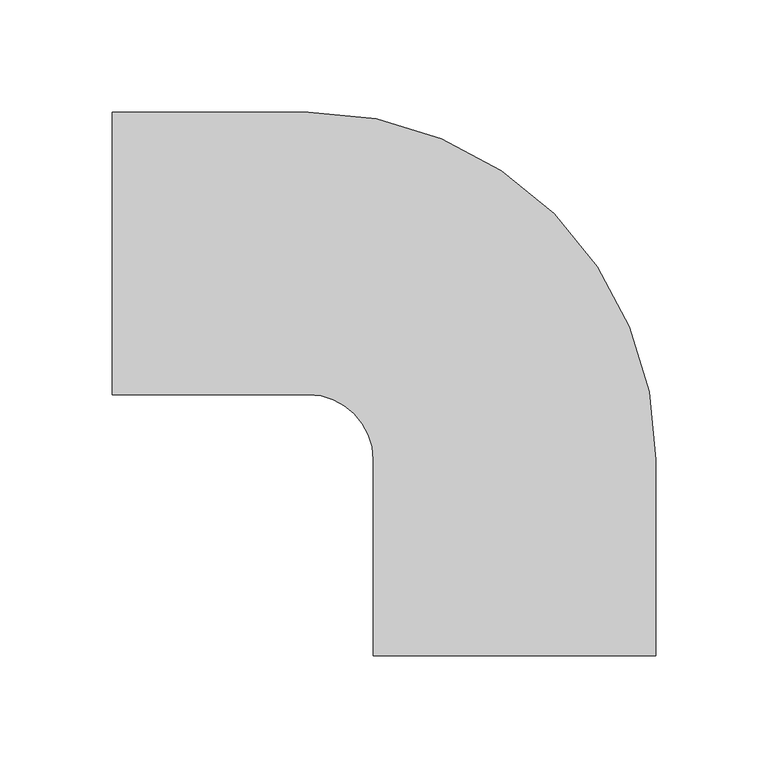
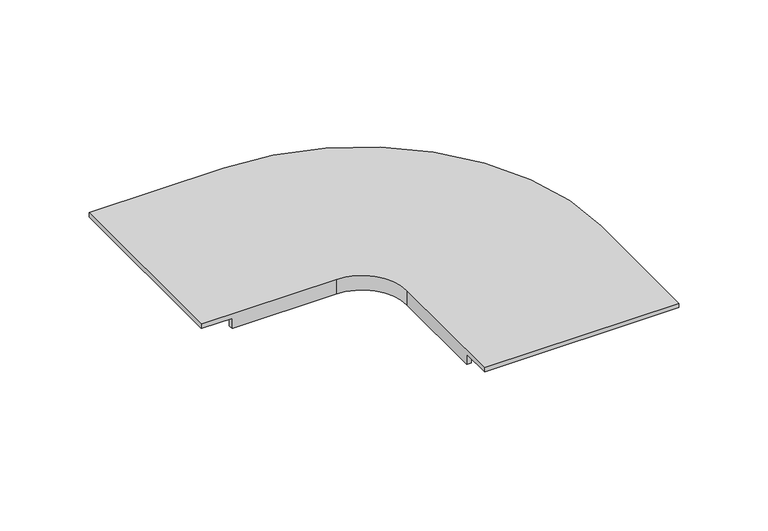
"""IFC4 building model written with IfcOpenShell, lengths in millimetres: cable carrier fitting geometry, CCT_Hyperline_FBTR-ELB90-CVR_Крышка на горизонтальный изгиб на 90°пластиковый : Крышка на горизонтальный изгиб на 90° пластиковый."""

from ifc_helpers import new_model, si_unit, frame, origin, place, context, project, spatial, polyline, circle_curve, source, transform, mapped, element, save
from ifc_brep_helpers import plane_surface, cylinder_surface, revolved_surface, advanced_brep


def cable_carrier_fitting_d0117bf3(model_context):
    return source(origin(), model_context, "Body", "AdvancedBrep", [
        advanced_brep(
        [(-89.2249258, 100.0558071, 53.0), (-89.2249258, 226.0558071, 53.0), (-89.2249258, 226.0558071, 50.0), (-89.2249258, 100.0558071, 50.0), (-1.7249258, 100.0558071, 53.0), (27.2750742, 71.0558071, 53.0), (27.2750742, -16.4441929, 53.0), (153.2750742, -16.4441929, 53.0), (153.2750742, 71.0558071, 53.0), (-1.7249258, 226.0558071, 53.0), (-1.7249258, 223.0558071, 50.0), (150.2750742, 71.0558071, 50.0), (150.2750742, 3.5558071, 50.0), (153.2750742, 3.5558071, 50.0), (153.2750742, -16.4441929, 50.0), (27.2750742, -16.4441929, 50.0), (27.2750742, 3.5558071, 50.0), (30.2750742, 3.5558071, 50.0), (30.2750742, 71.0558071, 50.0), (-1.7249258, 103.0558071, 50.0), (-69.2249258, 103.0558071, 50.0), (-69.2249258, 100.0558071, 50.0), (-69.2249258, 226.0558071, 50.0), (-69.2249258, 223.0558071, 50.0), (-1.7249258, 103.0558071, 43.0), (-69.2249258, 103.0558071, 43.0), (30.2750742, 71.0558071, 43.0), (30.2750742, 3.5558071, 43.0), (27.2750742, 3.5558071, 43.0), (27.2750742, 71.0558071, 43.0), (-1.7249258, 100.0558071, 43.0), (-69.2249258, 100.0558071, 43.0), (-1.7249258, 226.0558071, 43.0), (-69.2249258, 226.0558071, 43.0), (153.2750742, 71.0558071, 43.0), (153.2750742, 3.5558071, 43.0), (150.2750742, 3.5558071, 43.0), (150.2750742, 71.0558071, 43.0), (-1.7249258, 223.0558071, 43.0), (-69.2249258, 223.0558071, 43.0)],
        [
            (0, 1),
            (1, 2),
            (2, 3),
            (3, 0),
            (0, 4),
            (4, 5, circle_curve(frame((-1.7249258, 71.0558071, 53.0), z_axis=(0.0, 0.0, -1.0), x_axis=(0.0, 1.0, 0.0)), 29.0)),
            (5, 6),
            (6, 7),
            (7, 8),
            (8, 9, circle_curve(frame((-1.7249258, 71.0558071, 53.0), z_axis=(0.0, 0.0, 1.0), x_axis=(0.0, 1.0, 0.0)), 155.0)),
            (9, 1),
            (10, 11, circle_curve(frame((-1.7249258, 71.0558071, 50.0), z_axis=(0.0, 0.0, -1.0), x_axis=(0.0, 1.0, 0.0)), 152.0)),
            (11, 12),
            (12, 13),
            (13, 14),
            (14, 15),
            (15, 16),
            (16, 17),
            (17, 18),
            (18, 19, circle_curve(frame((-1.7249258, 71.0558071, 50.0), z_axis=(0.0, 0.0, 1.0), x_axis=(0.0, 1.0, 0.0)), 32.0)),
            (19, 20),
            (20, 21),
            (21, 3),
            (2, 22),
            (22, 23),
            (23, 10),
            (19, 24),
            (24, 25),
            (25, 20),
            (24, 26, circle_curve(frame((-1.7249258, 71.0558071, 43.0), z_axis=(0.0, 0.0, -1.0), x_axis=(0.0, 1.0, 0.0)), 32.0)),
            (26, 27),
            (27, 28),
            (28, 29),
            (29, 30, circle_curve(frame((-1.7249258, 71.0558071, 43.0), z_axis=(0.0, 0.0, 1.0), x_axis=(0.0, 1.0, 0.0)), 29.0)),
            (30, 31),
            (31, 25),
            (21, 31),
            (30, 4),
            (18, 26),
            (29, 5),
            (6, 15),
            (14, 7),
            (17, 27),
            (28, 16),
            (9, 32),
            (32, 33),
            (33, 22),
            (32, 34, circle_curve(frame((-1.7249258, 71.0558071, 43.0), z_axis=(0.0, 0.0, -1.0), x_axis=(0.0, 1.0, 0.0)), 155.0)),
            (34, 35),
            (35, 36),
            (36, 37),
            (37, 38, circle_curve(frame((-1.7249258, 71.0558071, 43.0), z_axis=(0.0, 0.0, 1.0), x_axis=(0.0, 1.0, 0.0)), 152.0)),
            (38, 39),
            (39, 33),
            (38, 10),
            (23, 39),
            (8, 34),
            (37, 11),
            (13, 35),
            (36, 12),
        ],
        [
            plane_surface(frame((-89.2249258, 103.0558071, 25.0), z_axis=(-1.0, 0.0, 0.0), x_axis=(0.0, 0.0, 1.0))),
            plane_surface(frame((-89.2249258, 100.0558071, 53.0), z_axis=(0.0, 0.0, 1.0), x_axis=(1.0, 0.0, 0.0))),
            plane_surface(frame((-89.2249258, 223.0558071, 50.0), z_axis=(0.0, 0.0, -1.0), x_axis=(1.0, 0.0, 0.0))),
            plane_surface(frame((-89.2249258, 103.0558071, 50.0), z_axis=(0.0, 1.0, 0.0), x_axis=(1.0, 0.0, 0.0))),
            plane_surface(frame((-89.2249258, 103.0558071, 43.0), z_axis=(0.0, 0.0, -1.0), x_axis=(1.0, 0.0, 0.0))),
            plane_surface(frame((-89.2249258, 100.0558071, 43.0), z_axis=(0.0, -1.0, 0.0), x_axis=(1.0, 0.0, 0.0))),
            cylinder_surface(frame((-1.7249258, 71.0558071, 25.0), z_axis=(0.0, 0.0, -1.0), x_axis=(0.0, 1.0, 0.0)), 32.0),
            revolved_surface(polyline([(-1.7249258, 100.0558071, 43.0), (-1.7249258, 100.0558071, 53.0)]), (-1.7249258, 71.0558071, 25.0), (0.0, 0.0, -1.0)),
            plane_surface(frame((30.2750742, -16.4441929, 25.0), z_axis=(0.0, -1.0, 0.0), x_axis=(0.0, 0.0, 1.0))),
            plane_surface(frame((30.2750742, 71.0558071, 50.0), z_axis=(1.0, 0.0, 0.0), x_axis=(0.0, -1.0, 0.0))),
            plane_surface(frame((27.2750742, 71.0558071, 43.0), z_axis=(-1.0, 0.0, 0.0), x_axis=(0.0, -1.0, 0.0))),
            plane_surface(frame((-89.2249258, 226.0558071, 53.0), z_axis=(0.0, 1.0, 0.0), x_axis=(1.0, 0.0, 0.0))),
            plane_surface(frame((-89.2249258, 226.0558071, 43.0), z_axis=(0.0, 0.0, -1.0), x_axis=(1.0, 0.0, 0.0))),
            plane_surface(frame((-89.2249258, 223.0558071, 43.0), z_axis=(0.0, -1.0, 0.0), x_axis=(1.0, 0.0, 0.0))),
            cylinder_surface(frame((-1.7249258, 71.0558071, 25.0), z_axis=(0.0, 0.0, -1.0), x_axis=(0.0, 1.0, 0.0)), 155.0),
            revolved_surface(polyline([(-1.7249258, 223.05580709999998, 43.0), (-1.7249258, 223.05580709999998, 50.0)]), (-1.7249258, 71.0558071, 25.0), (0.0, 0.0, -1.0)),
            plane_surface(frame((153.2750742, 71.0558071, 53.0), z_axis=(1.0, 0.0, 0.0), x_axis=(0.0, -1.0, 0.0))),
            plane_surface(frame((150.2750742, 71.0558071, 43.0), z_axis=(-1.0, 0.0, 0.0), x_axis=(0.0, -1.0, 0.0))),
            plane_surface(frame((-69.2249258, -225.5092401, 43.0), z_axis=(-1.0, 0.0, 0.0), x_axis=(0.0, 1.0, 0.0))),
            plane_surface(frame((-218.796213, 3.5558071, 50.0), z_axis=(0.0, -1.0, 0.0), x_axis=(1.0, 0.0, 0.0))),
        ],
        [
            (0, [[1, 2, 3, 4]]),
            (1, [[-1, 5, 6, 7, 8, 9, 10, 11]]),
            (2, [[12, 13, 14, 15, 16, 17, 18, 19, 20, 21, 22, 23, -3, 24, 25, 26]]),
            (3, [[27, 28, 29, -21]]),
            (4, [[30, 31, 32, 33, 34, 35, 36, -28]]),
            (5, [[-5, -4, -23, 37, -35, 38]]),
            (6, [[-20, 39, -30, -27]]),
            (7, [[-6, -38, -34, 40]]),
            (8, [[-8, 41, -16, 42]]),
            (9, [[-39, -19, 43, -31]]),
            (10, [[-7, -40, -33, 44, -17, -41]]),
            (11, [[-11, 45, 46, 47, -24, -2]]),
            (12, [[48, 49, 50, 51, 52, 53, 54, -46]]),
            (13, [[55, -26, 56, -53]]),
            (14, [[-10, 57, -48, -45]]),
            (15, [[-12, -55, -52, 58]]),
            (16, [[-9, -42, -15, 59, -49, -57]]),
            (17, [[-58, -51, 60, -13]]),
            (18, [[-22, -29, -36, -37]]),
            (18, [[-25, -47, -54, -56]]),
            (19, [[-14, -60, -50, -59]]),
            (19, [[-18, -44, -32, -43]]),
        ],
    ),
    ])


if __name__ == "__main__":
    model = new_model("IFC4")
    model_context = context("Model", 3, world=origin())
    ifc_project = project(units=[si_unit("LENGTHUNIT", "METRE", prefix="MILLI")], contexts=[model_context])
    site = spatial("IfcSite", under=ifc_project)
    building = spatial("IfcBuilding", under=site)
    placement = place(None, origin())
    cable_carrier_fitting_shape = cable_carrier_fitting_d0117bf3(model_context)
    element("IfcCableCarrierFitting", 1, ObjectType="CCT_Hyperline_FBTR-ELB90-CVR_Крышка на горизонтальный изгиб на 90°пластиковый : Крышка на горизонтальный изгиб на 90° пластиковый", at=placement, inside=building, context=model_context, shape_type="MappedRepresentation", body=[
        mapped(cable_carrier_fitting_shape, transform((0.0, 0.0, 0.0), x_axis=(1.0, 0.0, 0.0), y_axis=(0.0, 1.0, 0.0), z_axis=(0.0, 0.0, 1.0))),
    ])
    save(model, "model.ifc")
